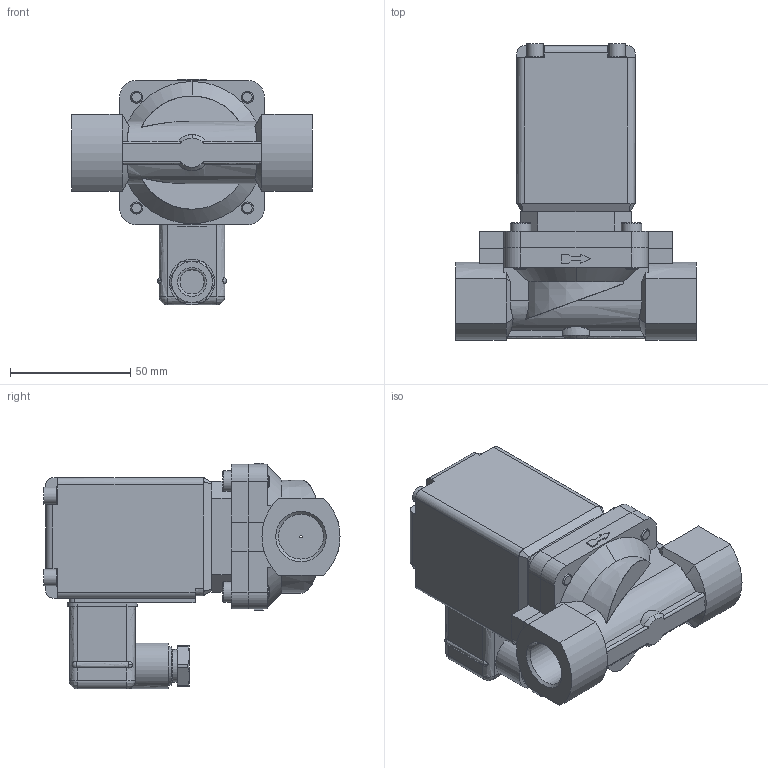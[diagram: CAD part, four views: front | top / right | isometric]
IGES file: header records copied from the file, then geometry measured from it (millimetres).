
Start section: Data from Parasolid IGES Translator 26.0.171, Copyright(c) 2006 Siemens PLM Software. All Rights Reserved.
Global section: file name: 0290-153870-Servo-assisted__2_2_way_diaphragm_valve.igs; native system: By Siemens PLM Incorporated; preprocessor: XPlus GENERIC/IGES 26.0.171; author: Noname; organization: Noname; date: 20241001.101649; units: millimetre
Bounding box: 100 x 122.9 x 93.7 mm (x, y, z)
Surface area: 52853.6 mm2 (no closed solid volume)
Topology: 0 solids, 0 shells, 292 faces, 1540 edges, 1505 vertices
Faces by surface type: extrusion 160, revolution 132
